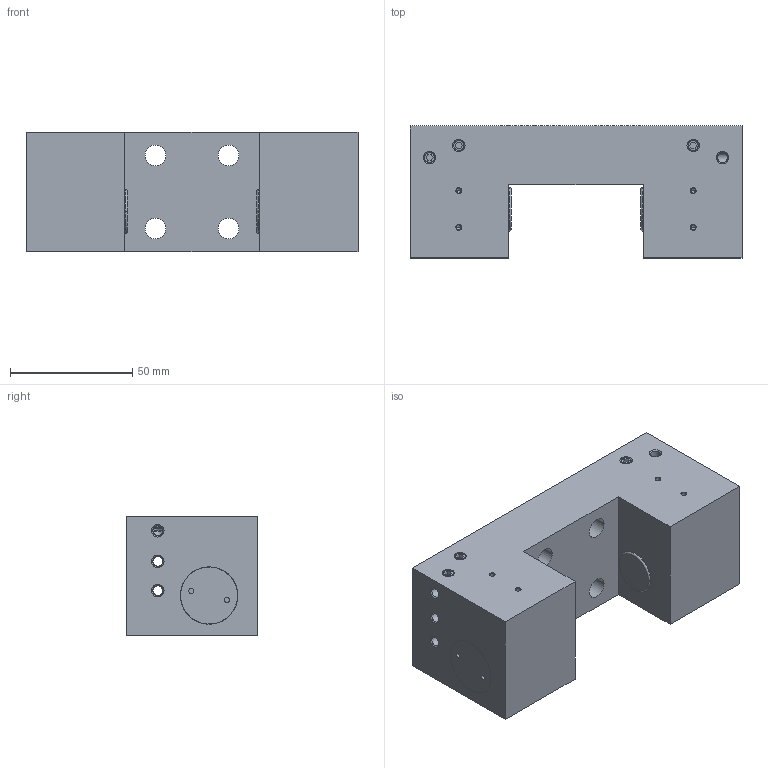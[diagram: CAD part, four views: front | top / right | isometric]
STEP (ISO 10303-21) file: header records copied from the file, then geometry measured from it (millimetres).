
FILE_DESCRIPTION((''),'2;1');
FILE_NAME('FRC55T01_SE-DE_SW0002','2013-08-30T',('Anacleto'),(''),'PRO/ENGINEER BY PARAMETRIC TECHNOLOGY CORPORATION, 2010020','PRO/ENGINEER BY PARAMETRIC TECHNOLOGY CORPORATION, 2010020','');
FILE_SCHEMA(('CONFIG_CONTROL_DESIGN'));
Length unit declared in the file: millimetre
Products named in the file (1): FRC55T01_SE-DE_SW0002
Bounding box: 136 x 54 x 49 mm (x, y, z)
Volume: 218852.7 mm3; surface area: 54175 mm2
Topology: 6 solids, 6 shells, 355 faces, 828 edges, 496 vertices
Faces by surface type: cylinder 148, cone 98, plane 97, torus 12
Entity records: 11616 total; most frequent: CARTESIAN_POINT 3435, DIRECTION 1764, ORIENTED_EDGE 1632, EDGE_CURVE 816, AXIS2_PLACEMENT_3D 693, VERTEX_POINT 496, EDGE_LOOP 410, VECTOR 378
